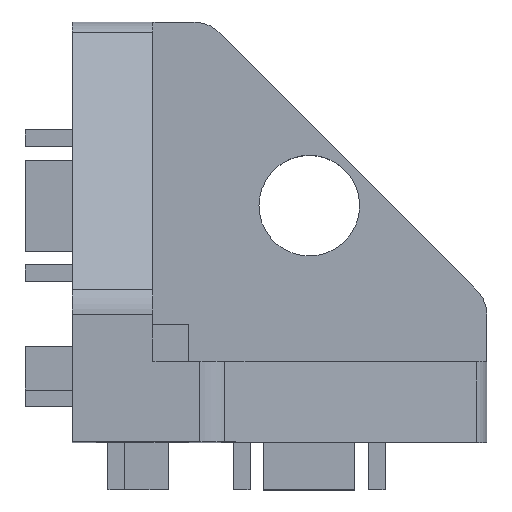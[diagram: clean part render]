
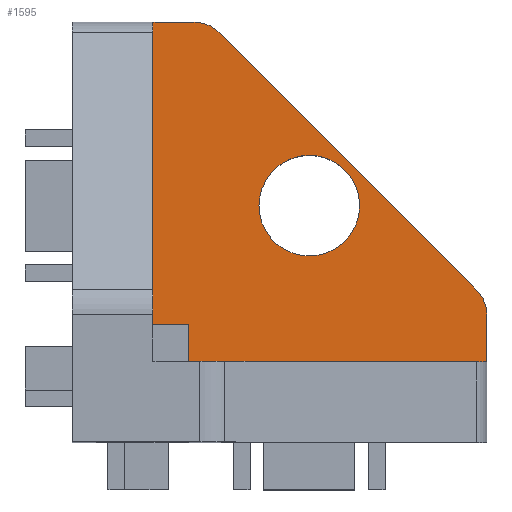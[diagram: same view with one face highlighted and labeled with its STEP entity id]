
A CAD part, top view. The second image highlights one B-rep face of the part: STEP entity #1595.
In plain terms, the highlighted planar face has unit normal (0, 0, 1).
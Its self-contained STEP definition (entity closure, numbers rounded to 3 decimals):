
#69 = DIRECTION ( 'NONE',  ( 1., 0., 0. ) ) ;
#88 = EDGE_CURVE ( 'NONE', #2177, #1480, #3073, .T. ) ;
#91 = ORIENTED_EDGE ( 'NONE', *, *, #5999, .F. ) ;
#92 = AXIS2_PLACEMENT_3D ( 'NONE', #1550, #4796, #2027 ) ;
#292 = DIRECTION ( 'NONE',  ( 1., 0., 0. ) ) ;
#477 = EDGE_LOOP ( 'NONE', ( #2844, #5928, #2306, #5277, #691, #5417, #3250, #4634, #91 ) ) ;
#691 = ORIENTED_EDGE ( 'NONE', *, *, #2329, .T. ) ;
#899 = CARTESIAN_POINT ( 'NONE',  ( 17.5, -57.631, -10.7 ) ) ;
#921 = CARTESIAN_POINT ( 'NONE',  ( 17.5, -6.993, -10.7 ) ) ;
#1088 = LINE ( 'NONE', #3792, #4625 ) ;
#1165 = CARTESIAN_POINT ( 'NONE',  ( 17.5, -57.631, -10.7 ) ) ;
#1480 = VERTEX_POINT ( 'NONE', #1509 ) ;
#1509 = CARTESIAN_POINT ( 'NONE',  ( -7.7, -10.95, -10.7 ) ) ;
#1550 = CARTESIAN_POINT ( 'NONE',  ( -7.243, 14.75, -10.7 ) ) ;
#1595 = ADVANCED_FACE ( 'NONE', ( #1801, #2890 ), #5561, .F. ) ;
#1684 = VECTOR ( 'NONE', #2434, 1000. ) ;
#1801 = FACE_BOUND ( 'NONE', #3181, .T. ) ;
#1905 = DIRECTION ( 'NONE',  ( 0., 0., 1. ) ) ;
#2027 = DIRECTION ( 'NONE',  ( -1., 0., 0. ) ) ;
#2091 = CARTESIAN_POINT ( 'NONE',  ( 17.5, -5.75, -10.7 ) ) ;
#2111 = VECTOR ( 'NONE', #292, 1000. ) ;
#2161 = CIRCLE ( 'NONE', #5714, 4.25 ) ;
#2167 = EDGE_CURVE ( 'NONE', #5990, #2177, #4552, .T. ) ;
#2177 = VERTEX_POINT ( 'NONE', #3540 ) ;
#2306 = ORIENTED_EDGE ( 'NONE', *, *, #5546, .T. ) ;
#2329 = EDGE_CURVE ( 'NONE', #2931, #5599, #3399, .T. ) ;
#2357 = DIRECTION ( 'NONE',  ( 0., 0., -1. ) ) ;
#2377 = CARTESIAN_POINT ( 'NONE',  ( 2.5, 2.25, -10.7 ) ) ;
#2426 = DIRECTION ( 'NONE',  ( -1., 0., 0. ) ) ;
#2432 = CIRCLE ( 'NONE', #4769, 4.25 ) ;
#2434 = DIRECTION ( 'NONE',  ( 0., -1., 0. ) ) ;
#2698 = ORIENTED_EDGE ( 'NONE', *, *, #3167, .T. ) ;
#2726 = CARTESIAN_POINT ( 'NONE',  ( -5.121, 16.871, -10.7 ) ) ;
#2759 = DIRECTION ( 'NONE',  ( 0., 0., -1. ) ) ;
#2844 = ORIENTED_EDGE ( 'NONE', *, *, #2167, .T. ) ;
#2852 = DIRECTION ( 'NONE',  ( -1., 0., 0. ) ) ;
#2873 = CARTESIAN_POINT ( 'NONE',  ( 6.75, 2.25, -10.7 ) ) ;
#2890 = FACE_OUTER_BOUND ( 'NONE', #477, .T. ) ;
#2916 = LINE ( 'NONE', #1165, #4962 ) ;
#2931 = VERTEX_POINT ( 'NONE', #921 ) ;
#2995 = VERTEX_POINT ( 'NONE', #4241 ) ;
#3072 = ORIENTED_EDGE ( 'NONE', *, *, #3150, .T. ) ;
#3073 = LINE ( 'NONE', #3385, #1684 ) ;
#3111 = VECTOR ( 'NONE', #3354, 1000. ) ;
#3150 = EDGE_CURVE ( 'NONE', #5411, #5980, #2432, .T. ) ;
#3167 = EDGE_CURVE ( 'NONE', #5980, #5411, #2161, .T. ) ;
#3181 = EDGE_LOOP ( 'NONE', ( #3072, #2698 ) ) ;
#3246 = LINE ( 'NONE', #5222, #3410 ) ;
#3250 = ORIENTED_EDGE ( 'NONE', *, *, #4968, .T. ) ;
#3354 = DIRECTION ( 'NONE',  ( 0., 1., 0. ) ) ;
#3385 = CARTESIAN_POINT ( 'NONE',  ( -7.7, -57.631, -10.7 ) ) ;
#3399 = CIRCLE ( 'NONE', #3419, 3. ) ;
#3410 = VECTOR ( 'NONE', #2426, 1000. ) ;
#3419 = AXIS2_PLACEMENT_3D ( 'NONE', #4681, #1905, #5139 ) ;
#3540 = CARTESIAN_POINT ( 'NONE',  ( -7.7, -7.75, -10.7 ) ) ;
#3606 = EDGE_CURVE ( 'NONE', #4573, #2931, #2916, .T. ) ;
#3792 = CARTESIAN_POINT ( 'NONE',  ( 17.5, -10.95, -10.7 ) ) ;
#3884 = VERTEX_POINT ( 'NONE', #4166 ) ;
#4120 = VECTOR ( 'NONE', #5807, 1000. ) ;
#4166 = CARTESIAN_POINT ( 'NONE',  ( -7.243, 17.75, -10.7 ) ) ;
#4241 = CARTESIAN_POINT ( 'NONE',  ( -10.7, 17.75, -10.7 ) ) ;
#4297 = CARTESIAN_POINT ( 'NONE',  ( -10.7, -7.75, -10.7 ) ) ;
#4325 = CARTESIAN_POINT ( 'NONE',  ( 16.621, -4.871, -10.7 ) ) ;
#4552 = LINE ( 'NONE', #5876, #2111 ) ;
#4573 = VERTEX_POINT ( 'NONE', #4751 ) ;
#4625 = VECTOR ( 'NONE', #69, 1000. ) ;
#4634 = ORIENTED_EDGE ( 'NONE', *, *, #5575, .T. ) ;
#4652 = CARTESIAN_POINT ( 'NONE',  ( -1.75, 2.25, -10.7 ) ) ;
#4681 = CARTESIAN_POINT ( 'NONE',  ( 14.5, -6.993, -10.7 ) ) ;
#4720 = CIRCLE ( 'NONE', #92, 3. ) ;
#4751 = CARTESIAN_POINT ( 'NONE',  ( 17.5, -10.95, -10.7 ) ) ;
#4769 = AXIS2_PLACEMENT_3D ( 'NONE', #5154, #2357, #5640 ) ;
#4796 = DIRECTION ( 'NONE',  ( 0., 0., 1. ) ) ;
#4962 = VECTOR ( 'NONE', #5811, 1000. ) ;
#4968 = EDGE_CURVE ( 'NONE', #5353, #3884, #4720, .T. ) ;
#5038 = EDGE_CURVE ( 'NONE', #5353, #5599, #5391, .T. ) ;
#5139 = DIRECTION ( 'NONE',  ( -1., 0., 0. ) ) ;
#5154 = CARTESIAN_POINT ( 'NONE',  ( 2.5, 2.25, -10.7 ) ) ;
#5222 = CARTESIAN_POINT ( 'NONE',  ( 17.5, 17.75, -10.7 ) ) ;
#5277 = ORIENTED_EDGE ( 'NONE', *, *, #3606, .T. ) ;
#5353 = VERTEX_POINT ( 'NONE', #2726 ) ;
#5391 = LINE ( 'NONE', #2091, #4120 ) ;
#5411 = VERTEX_POINT ( 'NONE', #4652 ) ;
#5417 = ORIENTED_EDGE ( 'NONE', *, *, #5038, .F. ) ;
#5546 = EDGE_CURVE ( 'NONE', #1480, #4573, #1088, .T. ) ;
#5561 = PLANE ( 'NONE',  #5942 ) ;
#5573 = LINE ( 'NONE', #5706, #3111 ) ;
#5575 = EDGE_CURVE ( 'NONE', #3884, #2995, #3246, .T. ) ;
#5599 = VERTEX_POINT ( 'NONE', #4325 ) ;
#5640 = DIRECTION ( 'NONE',  ( -1., 0., 0. ) ) ;
#5653 = DIRECTION ( 'NONE',  ( 0., 0., -1. ) ) ;
#5706 = CARTESIAN_POINT ( 'NONE',  ( -10.7, -57.631, -10.7 ) ) ;
#5714 = AXIS2_PLACEMENT_3D ( 'NONE', #2377, #5653, #2852 ) ;
#5807 = DIRECTION ( 'NONE',  ( 0.707, -0.707, 0. ) ) ;
#5811 = DIRECTION ( 'NONE',  ( 0., 1., 0. ) ) ;
#5876 = CARTESIAN_POINT ( 'NONE',  ( 17.5, -7.75, -10.7 ) ) ;
#5928 = ORIENTED_EDGE ( 'NONE', *, *, #88, .T. ) ;
#5942 = AXIS2_PLACEMENT_3D ( 'NONE', #899, #2759, #6024 ) ;
#5980 = VERTEX_POINT ( 'NONE', #2873 ) ;
#5990 = VERTEX_POINT ( 'NONE', #4297 ) ;
#5999 = EDGE_CURVE ( 'NONE', #5990, #2995, #5573, .T. ) ;
#6024 = DIRECTION ( 'NONE',  ( -1., 0., 0. ) ) ;
